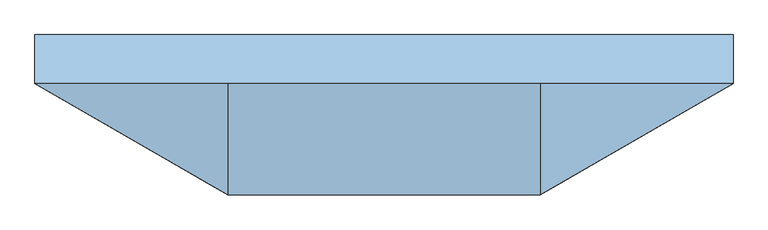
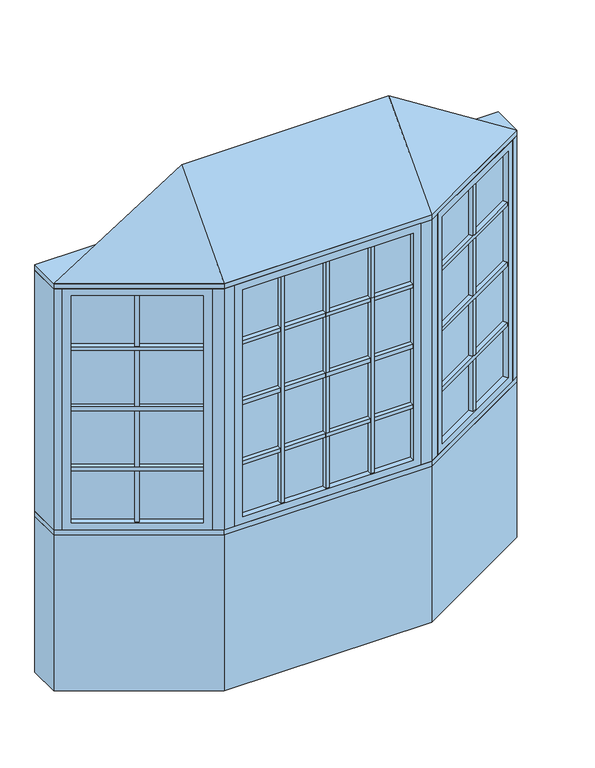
"""IFC4 building model written with IfcOpenShell, lengths in millimetres: window geometry, Pollard_Windows_Tudor Casement Bows and Bays : AML-BAY 30 AFR0512-12-600_GC."""

from ifc_helpers import new_model, si_unit, frame, origin, origin_with_axes, place, context, project, spatial, polyline, outline, extrude, faceted_brep, source, transform, mapped, element, save


def window_5ed1a6a2(model_context):
    return source(origin(), model_context, "Body", "SolidModel", [
        extrude(outline(polyline([(560.381999, -376.6297343), (549.381999, -357.5771754), (1015.6135794, -88.3982469), (1026.6135794, -107.4508058), (560.381999, -376.6297343)])), frame((0.0, 0.0, 1390.998), z_axis=(0.0, 0.0, 1.0), x_axis=(1.0, 0.0, 0.0)), (0.0, 0.0, 1.0), 18.0),
        extrude(outline(polyline([(546.841999, -353.1777664), (535.841999, -334.1252075), (1002.0735794, -64.946279), (1013.0735794, -83.9988379), (546.841999, -353.1777664)])), frame((0.0, 0.0, 1390.998), z_axis=(0.0, 0.0, 1.0), x_axis=(1.0, 0.0, 0.0)), (0.0, 0.0, 1.0), 18.0),
        extrude(outline(polyline([(560.381999, -376.6297343), (549.381999, -357.5771754), (1015.6135794, -88.3982469), (1026.6135794, -107.4508058), (560.381999, -376.6297343)])), frame((0.0, 0.0, 1090.998), z_axis=(0.0, 0.0, 1.0), x_axis=(1.0, 0.0, 0.0)), (0.0, 0.0, 1.0), 18.0),
        extrude(outline(polyline([(546.841999, -353.1777664), (535.841999, -334.1252075), (1002.0735794, -64.946279), (1013.0735794, -83.9988379), (546.841999, -353.1777664)])), frame((0.0, 0.0, 1090.998), z_axis=(0.0, 0.0, 1.0), x_axis=(1.0, 0.0, 0.0)), (0.0, 0.0, 1.0), 18.0),
        extrude(outline(polyline([(560.381999, -376.6297343), (549.381999, -357.5771754), (1015.6135794, -88.3982469), (1026.6135794, -107.4508058), (560.381999, -376.6297343)])), frame((0.0, 0.0, 1390.998), z_axis=(0.0, 0.0, 1.0), x_axis=(1.0, 0.0, 0.0)), (0.0, 0.0, 1.0), 18.0),
        extrude(outline(polyline([(546.841999, -353.1777664), (535.841999, -334.1252075), (1002.0735794, -64.946279), (1013.0735794, -83.9988379), (546.841999, -353.1777664)])), frame((0.0, 0.0, 1390.998), z_axis=(0.0, 0.0, 1.0), x_axis=(1.0, 0.0, 0.0)), (0.0, 0.0, 1.0), 18.0),
        extrude(outline(polyline([(560.381999, -376.6297343), (549.381999, -357.5771754), (1015.6135794, -88.3982469), (1026.6135794, -107.4508058), (560.381999, -376.6297343)])), frame((0.0, 0.0, 1390.998), z_axis=(0.0, 0.0, 1.0), x_axis=(1.0, 0.0, 0.0)), (0.0, 0.0, 1.0), 18.0),
        extrude(outline(polyline([(546.841999, -353.1777664), (535.841999, -334.1252075), (1002.0735794, -64.946279), (1013.0735794, -83.9988379), (546.841999, -353.1777664)])), frame((0.0, 0.0, 1390.998), z_axis=(0.0, 0.0, 1.0), x_axis=(1.0, 0.0, 0.0)), (0.0, 0.0, 1.0), 18.0),
        extrude(outline(polyline([(560.381999, -376.6297343), (549.381999, -357.5771754), (1015.6135794, -88.3982469), (1026.6135794, -107.4508058), (560.381999, -376.6297343)])), frame((0.0, 0.0, 1690.998), z_axis=(0.0, 0.0, 1.0), x_axis=(1.0, 0.0, 0.0)), (0.0, 0.0, 1.0), 18.0),
        extrude(outline(polyline([(546.841999, -353.1777664), (535.841999, -334.1252075), (1002.0735794, -64.946279), (1013.0735794, -83.9988379), (546.841999, -353.1777664)])), frame((0.0, 0.0, 1690.998), z_axis=(0.0, 0.0, 1.0), x_axis=(1.0, 0.0, 0.0)), (0.0, 0.0, 1.0), 18.0),
        extrude(outline(polyline([(790.2920178, -218.4877112), (801.2920178, -237.5402701), (785.7035606, -246.5402701), (774.7035606, -227.4877112), (790.2920178, -218.4877112)])), frame((0.0, 0.0, 835.8628), z_axis=(0.0, 0.0, 1.0), x_axis=(1.0, 0.0, 0.0)), (0.0, 0.0, 1.0), 1128.2704),
        extrude(outline(polyline([(787.7520178, -214.0883021), (772.1635606, -223.0883021), (761.1635606, -204.0357432), (776.7520178, -195.0357432), (787.7520178, -214.0883021)])), frame((0.0, 0.0, 835.8628), z_axis=(0.0, 0.0, 1.0), x_axis=(1.0, 0.0, 0.0)), (0.0, 0.0, 1.0), 1128.2704),
        extrude(outline(polyline([(1026.612102, -82.0482469), (538.3834764, -363.9271754), (535.8434764, -359.5277664), (1024.072102, -77.6488379), (1026.612102, -82.0482469)])), frame((0.0, 0.0, 823.1628), z_axis=(0.0, 0.0, 1.0), x_axis=(1.0, 0.0, 0.0)), (0.0, 0.0, 1.0), 1153.6704),
        faceted_brep([(1015.6135794, -88.3982469, 835.8628), (1028.3135794, -110.3952922, 835.8628), (1028.3135794, -110.3952922, 1964.1332), (1015.6135794, -88.3982469, 1964.1332), (1024.072102, -77.6488379, 823.1628), (1026.612102, -82.0482469, 823.1628), (1026.612102, -82.0482469, 1976.8332), (1024.072102, -77.6488379, 1976.8332), (1000.3735794, -62.0017926, 835.8628), (1013.0735794, -83.9988379, 835.8628), (1013.0735794, -83.9988379, 1964.1332), (1000.3735794, -62.0017926, 1964.1332), (1059.3734073, -92.4628922, 799.998), (1031.4334073, -44.0693926, 799.998), (1031.4334073, -44.0693926, 1999.998), (1059.3734073, -92.4628922, 1999.998), (562.081999, -379.5742207, 1964.1332), (549.381999, -357.5771754, 1964.1332), (538.3834764, -363.9271754, 1976.8332), (535.8434764, -359.5277664, 1976.8332), (546.841999, -353.1777664, 1964.1332), (534.141999, -331.1807211, 1964.1332), (503.0821711, -349.1131211, 1999.998), (531.0221711, -397.5066207, 1999.998), (562.081999, -379.5742207, 835.8628), (549.381999, -357.5771754, 835.8628), (538.3834764, -363.9271754, 823.1628), (535.8434764, -359.5277664, 823.1628), (546.841999, -353.1777664, 835.8628), (534.141999, -331.1807211, 835.8628), (503.0821711, -349.1131211, 799.998), (531.0221711, -397.5066207, 799.998)], [[[0, 1, 2, 3]], [[4, 5, 6, 7]], [[8, 9, 10, 11]], [[12, 13, 14, 15]], [[3, 2, 16, 17]], [[7, 6, 18, 19]], [[11, 10, 20, 21]], [[15, 14, 22, 23]], [[17, 16, 24, 25]], [[19, 18, 26, 27]], [[21, 20, 28, 29]], [[23, 22, 30, 31]], [[25, 24, 1, 0]], [[5, 26, 18, 6], [3, 17, 25, 0]], [[27, 26, 5, 4]], [[7, 19, 27, 4], [9, 28, 20, 10]], [[29, 28, 9, 8]], [[13, 30, 22, 14], [11, 21, 29, 8]], [[31, 30, 13, 12]], [[15, 23, 31, 12], [1, 24, 16, 2]]]),
        extrude(outline(polyline([(220.7781504, -397.1066207), (220.7781504, -419.1066207), (202.7781504, -419.1066207), (202.7781504, -397.1066207), (220.7781504, -397.1066207)])), frame((0.0, 0.0, 835.8628), z_axis=(0.0, 0.0, 1.0), x_axis=(1.0, 0.0, 0.0)), (0.0, 0.0, 1.0), 1128.2704),
        extrude(outline(polyline([(220.7781504, -392.0266207), (202.7781504, -392.0266207), (202.7781504, -370.0266207), (220.7781504, -370.0266207), (220.7781504, -392.0266207)])), frame((0.0, 0.0, 835.8628), z_axis=(0.0, 0.0, 1.0), x_axis=(1.0, 0.0, 0.0)), (0.0, 0.0, 1.0), 1128.2704),
        extrude(outline(polyline([(-202.7781504, -397.1066207), (-202.7781504, -419.1066207), (-220.7781504, -419.1066207), (-220.7781504, -397.1066207), (-202.7781504, -397.1066207)])), frame((0.0, 0.0, 835.8628), z_axis=(0.0, 0.0, 1.0), x_axis=(1.0, 0.0, 0.0)), (0.0, 0.0, 1.0), 1128.2704),
        extrude(outline(polyline([(-202.7781504, -392.0266207), (-220.7781504, -392.0266207), (-220.7781504, -370.0266207), (-202.7781504, -370.0266207), (-202.7781504, -392.0266207)])), frame((0.0, 0.0, 835.8628), z_axis=(0.0, 0.0, 1.0), x_axis=(1.0, 0.0, 0.0)), (0.0, 0.0, 1.0), 1128.2704),
        extrude(outline(polyline([(-401.8561009, -419.1066207), (-401.8561009, -397.1066207), (401.8561009, -397.1066207), (401.8561009, -419.1066207), (-401.8561009, -419.1066207)])), frame((0.0, 0.0, 1090.998), z_axis=(0.0, 0.0, 1.0), x_axis=(1.0, 0.0, 0.0)), (0.0, 0.0, 1.0), 18.0),
        extrude(outline(polyline([(-401.8561009, -392.0266207), (-401.8561009, -370.0266207), (401.8561009, -370.0266207), (401.8561009, -392.0266207), (-401.8561009, -392.0266207)])), frame((0.0, 0.0, 1090.998), z_axis=(0.0, 0.0, 1.0), x_axis=(1.0, 0.0, 0.0)), (0.0, 0.0, 1.0), 18.0),
        extrude(outline(polyline([(-401.8561009, -419.1066207), (-401.8561009, -397.1066207), (401.8561009, -397.1066207), (401.8561009, -419.1066207), (-401.8561009, -419.1066207)])), frame((0.0, 0.0, 1390.998), z_axis=(0.0, 0.0, 1.0), x_axis=(1.0, 0.0, 0.0)), (0.0, 0.0, 1.0), 18.0),
        extrude(outline(polyline([(-401.8561009, -392.0266207), (-401.8561009, -370.0266207), (401.8561009, -370.0266207), (401.8561009, -392.0266207), (-401.8561009, -392.0266207)])), frame((0.0, 0.0, 1390.998), z_axis=(0.0, 0.0, 1.0), x_axis=(1.0, 0.0, 0.0)), (0.0, 0.0, 1.0), 18.0),
        extrude(outline(polyline([(-401.8561009, -419.1066207), (-401.8561009, -397.1066207), (401.8561009, -397.1066207), (401.8561009, -419.1066207), (-401.8561009, -419.1066207)])), frame((0.0, 0.0, 1390.998), z_axis=(0.0, 0.0, 1.0), x_axis=(1.0, 0.0, 0.0)), (0.0, 0.0, 1.0), 18.0),
        extrude(outline(polyline([(-401.8561009, -392.0266207), (-401.8561009, -370.0266207), (401.8561009, -370.0266207), (401.8561009, -392.0266207), (-401.8561009, -392.0266207)])), frame((0.0, 0.0, 1390.998), z_axis=(0.0, 0.0, 1.0), x_axis=(1.0, 0.0, 0.0)), (0.0, 0.0, 1.0), 18.0),
        extrude(outline(polyline([(-401.8561009, -419.1066207), (-401.8561009, -397.1066207), (401.8561009, -397.1066207), (401.8561009, -419.1066207), (-401.8561009, -419.1066207)])), frame((0.0, 0.0, 1390.998), z_axis=(0.0, 0.0, 1.0), x_axis=(1.0, 0.0, 0.0)), (0.0, 0.0, 1.0), 18.0),
        extrude(outline(polyline([(-401.8561009, -392.0266207), (-401.8561009, -370.0266207), (401.8561009, -370.0266207), (401.8561009, -392.0266207), (-401.8561009, -392.0266207)])), frame((0.0, 0.0, 1390.998), z_axis=(0.0, 0.0, 1.0), x_axis=(1.0, 0.0, 0.0)), (0.0, 0.0, 1.0), 18.0),
        extrude(outline(polyline([(-1026.6135794, -107.4508058), (-1015.6135794, -88.3982469), (-549.381999, -357.5771754), (-560.381999, -376.6297343), (-1026.6135794, -107.4508058)])), frame((0.0, 0.0, 1090.998), z_axis=(0.0, 0.0, 1.0), x_axis=(1.0, 0.0, 0.0)), (0.0, 0.0, 1.0), 18.0),
        extrude(outline(polyline([(-1013.0735794, -83.9988379), (-1002.0735794, -64.946279), (-535.841999, -334.1252075), (-546.841999, -353.1777664), (-1013.0735794, -83.9988379)])), frame((0.0, 0.0, 1090.998), z_axis=(0.0, 0.0, 1.0), x_axis=(1.0, 0.0, 0.0)), (0.0, 0.0, 1.0), 18.0),
        extrude(outline(polyline([(-1026.6135794, -107.4508058), (-1015.6135794, -88.3982469), (-549.381999, -357.5771754), (-560.381999, -376.6297343), (-1026.6135794, -107.4508058)])), frame((0.0, 0.0, 1390.998), z_axis=(0.0, 0.0, 1.0), x_axis=(1.0, 0.0, 0.0)), (0.0, 0.0, 1.0), 18.0),
        extrude(outline(polyline([(-1013.0735794, -83.9988379), (-1002.0735794, -64.946279), (-535.841999, -334.1252075), (-546.841999, -353.1777664), (-1013.0735794, -83.9988379)])), frame((0.0, 0.0, 1390.998), z_axis=(0.0, 0.0, 1.0), x_axis=(1.0, 0.0, 0.0)), (0.0, 0.0, 1.0), 18.0),
        extrude(outline(polyline([(-1026.6135794, -107.4508058), (-1015.6135794, -88.3982469), (-549.381999, -357.5771754), (-560.381999, -376.6297343), (-1026.6135794, -107.4508058)])), frame((0.0, 0.0, 1390.998), z_axis=(0.0, 0.0, 1.0), x_axis=(1.0, 0.0, 0.0)), (0.0, 0.0, 1.0), 18.0),
        extrude(outline(polyline([(-1013.0735794, -83.9988379), (-1002.0735794, -64.946279), (-535.841999, -334.1252075), (-546.841999, -353.1777664), (-1013.0735794, -83.9988379)])), frame((0.0, 0.0, 1390.998), z_axis=(0.0, 0.0, 1.0), x_axis=(1.0, 0.0, 0.0)), (0.0, 0.0, 1.0), 18.0),
        extrude(outline(polyline([(-1026.6135794, -107.4508058), (-1015.6135794, -88.3982469), (-549.381999, -357.5771754), (-560.381999, -376.6297343), (-1026.6135794, -107.4508058)])), frame((0.0, 0.0, 1390.998), z_axis=(0.0, 0.0, 1.0), x_axis=(1.0, 0.0, 0.0)), (0.0, 0.0, 1.0), 18.0),
        extrude(outline(polyline([(-1013.0735794, -83.9988379), (-1002.0735794, -64.946279), (-535.841999, -334.1252075), (-546.841999, -353.1777664), (-1013.0735794, -83.9988379)])), frame((0.0, 0.0, 1390.998), z_axis=(0.0, 0.0, 1.0), x_axis=(1.0, 0.0, 0.0)), (0.0, 0.0, 1.0), 18.0),
        extrude(outline(polyline([(-1026.6135794, -107.4508058), (-1015.6135794, -88.3982469), (-549.381999, -357.5771754), (-560.381999, -376.6297343), (-1026.6135794, -107.4508058)])), frame((0.0, 0.0, 1690.998), z_axis=(0.0, 0.0, 1.0), x_axis=(1.0, 0.0, 0.0)), (0.0, 0.0, 1.0), 18.0),
        extrude(outline(polyline([(-1013.0735794, -83.9988379), (-1002.0735794, -64.946279), (-535.841999, -334.1252075), (-546.841999, -353.1777664), (-1013.0735794, -83.9988379)])), frame((0.0, 0.0, 1690.998), z_axis=(0.0, 0.0, 1.0), x_axis=(1.0, 0.0, 0.0)), (0.0, 0.0, 1.0), 18.0),
        extrude(outline(polyline([(-401.8561009, -419.1066207), (-401.8561009, -397.1066207), (401.8561009, -397.1066207), (401.8561009, -419.1066207), (-401.8561009, -419.1066207)])), frame((0.0, 0.0, 1690.998), z_axis=(0.0, 0.0, 1.0), x_axis=(1.0, 0.0, 0.0)), (0.0, 0.0, 1.0), 18.0),
        extrude(outline(polyline([(-401.8561009, -392.0266207), (-401.8561009, -370.0266207), (401.8561009, -370.0266207), (401.8561009, -392.0266207), (-401.8561009, -392.0266207)])), frame((0.0, 0.0, 1690.998), z_axis=(0.0, 0.0, 1.0), x_axis=(1.0, 0.0, 0.0)), (0.0, 0.0, 1.0), 18.0),
        extrude(outline(polyline([(-774.7035606, -227.4877112), (-785.7035606, -246.5402701), (-801.2920178, -237.5402701), (-790.2920178, -218.4877112), (-774.7035606, -227.4877112)])), frame((0.0, 0.0, 835.8628), z_axis=(0.0, 0.0, 1.0), x_axis=(1.0, 0.0, 0.0)), (0.0, 0.0, 1.0), 1128.2704),
        extrude(outline(polyline([(-772.1635606, -223.0883021), (-787.7520178, -214.0883021), (-776.7520178, -195.0357432), (-761.1635606, -204.0357432), (-772.1635606, -223.0883021)])), frame((0.0, 0.0, 835.8628), z_axis=(0.0, 0.0, 1.0), x_axis=(1.0, 0.0, 0.0)), (0.0, 0.0, 1.0), 1128.2704),
        extrude(outline(polyline([(9.0, -397.1066207), (9.0, -419.1066207), (-9.0, -419.1066207), (-9.0, -397.1066207), (9.0, -397.1066207)])), frame((0.0, 0.0, 835.8628), z_axis=(0.0, 0.0, 1.0), x_axis=(1.0, 0.0, 0.0)), (0.0, 0.0, 1.0), 1128.2704),
        extrude(outline(polyline([(9.0, -392.0266207), (-9.0, -392.0266207), (-9.0, -370.0266207), (9.0, -370.0266207), (9.0, -392.0266207)])), frame((0.0, 0.0, 835.8628), z_axis=(0.0, 0.0, 1.0), x_axis=(1.0, 0.0, 0.0)), (0.0, 0.0, 1.0), 1128.2704),
        extrude(outline(polyline([(-538.3834764, -363.9271754), (-1026.612102, -82.0482469), (-1024.072102, -77.6488379), (-535.8434764, -359.5277664), (-538.3834764, -363.9271754)])), frame((0.0, 0.0, 823.1628), z_axis=(0.0, 0.0, 1.0), x_axis=(1.0, 0.0, 0.0)), (0.0, 0.0, 1.0), 1153.6704),
        faceted_brep([(-546.841999, -353.1777664, 1964.1332), (-534.141999, -331.1807211, 1964.1332), (-534.141999, -331.1807211, 835.8628), (-546.841999, -353.1777664, 835.8628), (-538.3834764, -363.9271754, 1976.8332), (-535.8434764, -359.5277664, 1976.8332), (-535.8434764, -359.5277664, 823.1628), (-538.3834764, -363.9271754, 823.1628), (-562.081999, -379.5742207, 1964.1332), (-549.381999, -357.5771754, 1964.1332), (-549.381999, -357.5771754, 835.8628), (-562.081999, -379.5742207, 835.8628), (-503.0821711, -349.1131211, 1999.998), (-531.0221711, -397.5066207, 1999.998), (-531.0221711, -397.5066207, 799.998), (-503.0821711, -349.1131211, 799.998), (-1000.3735794, -62.0017926, 835.8628), (-1013.0735794, -83.9988379, 835.8628), (-1024.072102, -77.6488379, 823.1628), (-1026.612102, -82.0482469, 823.1628), (-1015.6135794, -88.3982469, 835.8628), (-1028.3135794, -110.3952922, 835.8628), (-1059.3734073, -92.4628922, 799.998), (-1031.4334073, -44.0693926, 799.998), (-1000.3735794, -62.0017926, 1964.1332), (-1013.0735794, -83.9988379, 1964.1332), (-1024.072102, -77.6488379, 1976.8332), (-1026.612102, -82.0482469, 1976.8332), (-1015.6135794, -88.3982469, 1964.1332), (-1028.3135794, -110.3952922, 1964.1332), (-1059.3734073, -92.4628922, 1999.998), (-1031.4334073, -44.0693926, 1999.998)], [[[0, 1, 2, 3]], [[4, 5, 6, 7]], [[8, 9, 10, 11]], [[12, 13, 14, 15]], [[3, 2, 16, 17]], [[7, 6, 18, 19]], [[11, 10, 20, 21]], [[15, 14, 22, 23]], [[17, 16, 24, 25]], [[19, 18, 26, 27]], [[21, 20, 28, 29]], [[23, 22, 30, 31]], [[15, 23, 31, 12], [1, 24, 16, 2]], [[25, 24, 1, 0]], [[5, 26, 18, 6], [3, 17, 25, 0]], [[27, 26, 5, 4]], [[7, 19, 27, 4], [9, 28, 20, 10]], [[29, 28, 9, 8]], [[13, 30, 22, 14], [11, 21, 29, 8]], [[31, 30, 13, 12]]]),
        extrude(outline(polyline([(414.5561009, -397.1066207), (-414.5561009, -397.1066207), (-414.5561009, -392.0266207), (414.5561009, -392.0266207), (414.5561009, -397.1066207)])), frame((0.0, 0.0, 823.1628), z_axis=(0.0, 0.0, 1.0), x_axis=(1.0, 0.0, 0.0)), (0.0, 0.0, 1.0), 1153.6704),
        faceted_brep([(401.8561009, -397.1066207, 835.8628), (401.8561009, -422.5066207, 835.8628), (401.8561009, -422.5066207, 1964.1332), (401.8561009, -397.1066207, 1964.1332), (414.5561009, -392.0266207, 823.1628), (414.5561009, -397.1066207, 823.1628), (414.5561009, -397.1066207, 1976.8332), (414.5561009, -392.0266207, 1976.8332), (401.8561009, -366.6266207, 835.8628), (401.8561009, -392.0266207, 835.8628), (401.8561009, -392.0266207, 1964.1332), (401.8561009, -366.6266207, 1964.1332), (437.7209009, -422.5066207, 799.998), (437.7209009, -366.6266207, 799.998), (437.7209009, -366.6266207, 1999.998), (437.7209009, -422.5066207, 1999.998), (-401.8561009, -422.5066207, 1964.1332), (-401.8561009, -397.1066207, 1964.1332), (-414.5561009, -397.1066207, 1976.8332), (-414.5561009, -392.0266207, 1976.8332), (-401.8561009, -392.0266207, 1964.1332), (-401.8561009, -366.6266207, 1964.1332), (-437.7209009, -366.6266207, 1999.998), (-437.7209009, -422.5066207, 1999.998), (-401.8561009, -422.5066207, 835.8628), (-401.8561009, -397.1066207, 835.8628), (-414.5561009, -397.1066207, 823.1628), (-414.5561009, -392.0266207, 823.1628), (-401.8561009, -392.0266207, 835.8628), (-401.8561009, -366.6266207, 835.8628), (-437.7209009, -366.6266207, 799.998), (-437.7209009, -422.5066207, 799.998)], [[[0, 1, 2, 3]], [[4, 5, 6, 7]], [[8, 9, 10, 11]], [[12, 13, 14, 15]], [[3, 2, 16, 17]], [[7, 6, 18, 19]], [[11, 10, 20, 21]], [[15, 14, 22, 23]], [[17, 16, 24, 25]], [[19, 18, 26, 27]], [[21, 20, 28, 29]], [[23, 22, 30, 31]], [[15, 23, 31, 12], [1, 24, 16, 2]], [[25, 24, 1, 0]], [[5, 26, 18, 6], [3, 17, 25, 0]], [[27, 26, 5, 4]], [[7, 19, 27, 4], [9, 28, 20, 10]], [[29, 28, 9, 8]], [[13, 30, 22, 14], [11, 21, 29, 8]], [[31, 30, 13, 12]]]),
        faceted_brep([(1090.0, -74.7806207, 2025.398), (487.7209009, -422.5066207, 2025.398), (-487.7209009, -422.5066207, 2025.398), (-1090.0, -74.7806207, 2025.398), (-487.7209009, -74.7806207, 2406.398), (487.7209009, -74.7806207, 2406.398)], [[[0, 1, 2, 3]], [[3, 2, 4]], [[2, 1, 5, 4]], [[1, 0, 5]], [[0, 3, 4, 5]]]),
        extrude(outline(polyline([(-1090.0, 77.6193793), (1090.0, 77.6193793), (1090.0, -74.7806207), (487.7209009, -422.5066207), (-487.7209009, -422.5066207), (-1090.0, -74.7806207), (-1090.0, 77.6193793)])), frame((0.0, 0.0, 1999.998), z_axis=(0.0, 0.0, 1.0), x_axis=(1.0, 0.0, 0.0)), (0.0, 0.0, 1.0), 25.4),
        extrude(outline(polyline([(-1090.0, -74.7806207), (-1090.0, 77.6193793), (-1049.1645431, 77.6193793), (-1049.1645431, -74.7806207), (-1059.3734073, -92.4628922), (-1090.0, -74.7806207)])), frame((0.0, 0.0, 799.998), z_axis=(0.0, 0.0, 1.0), x_axis=(1.0, 0.0, 0.0)), (0.0, 0.0, 1.0), 1200.0),
        extrude(outline(polyline([(1090.0, 77.6193793), (1090.0, -74.7806207), (1059.3734073, -92.4628922), (1049.1645431, -74.7806207), (1049.1645431, 77.6193793), (1090.0, 77.6193793)])), frame((0.0, 0.0, 799.998), z_axis=(0.0, 0.0, 1.0), x_axis=(1.0, 0.0, 0.0)), (0.0, 0.0, 1.0), 1200.0),
        extrude(outline(polyline([(487.7209009, -422.5066207), (437.7209009, -422.5066207), (437.7209009, -372.5066207), (474.3234413, -372.5066207), (506.0221711, -354.2053505), (531.0221711, -397.5066207), (487.7209009, -422.5066207)])), frame((0.0, 0.0, 799.998), z_axis=(0.0, 0.0, 1.0), x_axis=(1.0, 0.0, 0.0)), (0.0, 0.0, 1.0), 1200.0),
        extrude(outline(polyline([(-487.7209009, -422.5066207), (-531.0221711, -397.5066207), (-506.0221711, -354.2053505), (-474.3234413, -372.5066207), (-437.7209009, -372.5066207), (-437.7209009, -422.5066207), (-487.7209009, -422.5066207)])), frame((0.0, 0.0, 799.998), z_axis=(0.0, 0.0, 1.0), x_axis=(1.0, 0.0, 0.0)), (0.0, 0.0, 1.0), 1200.0),
        extrude(outline(polyline([(-487.7209009, -422.5066207), (-1090.0, -74.7806207), (-1090.0, 77.6193793), (-1049.1645431, 77.6193793), (-446.885444, -270.1066207), (446.885444, -270.1066207), (1049.1645431, 77.6193793), (1090.0, 77.6193793), (1090.0, -74.7806207), (487.7209009, -422.5066207), (-487.7209009, -422.5066207)])), frame((0.0, 0.0, 774.598), z_axis=(0.0, 0.0, 1.0), x_axis=(1.0, 0.0, 0.0)), (0.0, 0.0, 1.0), 25.4),
        extrude(outline(polyline([(-1090.0, -74.7806207), (-1090.0, 77.6193793), (-1049.1645431, 77.6193793), (-446.885444, -270.1066207), (446.885444, -270.1066207), (1049.1645431, 77.6193793), (1090.0, 77.6193793), (1090.0, -74.7806207), (487.7209009, -422.5066207), (-487.7209009, -422.5066207), (-1090.0, -74.7806207)])), origin_with_axes(), (0.0, 0.0, 1.0), 774.598),
    ])


if __name__ == "__main__":
    model = new_model("IFC4")
    model_context = context("Model", 3, world=origin())
    ifc_project = project(units=[si_unit("LENGTHUNIT", "METRE", prefix="MILLI")], contexts=[model_context])
    site = spatial("IfcSite", under=ifc_project)
    building = spatial("IfcBuilding", under=site)
    placement = place(None, origin())
    window_shape = window_5ed1a6a2(model_context)
    element("IfcWindow", 1, ObjectType="Pollard_Windows_Tudor Casement Bows and Bays : AML-BAY 30 AFR0512-12-600_GC", at=placement, inside=building, context=model_context, shape_type="MappedRepresentation", body=[
        mapped(window_shape, transform((0.0, 0.0, 0.0), x_axis=(1.0, 0.0, 0.0), y_axis=(0.0, 1.0, 0.0), z_axis=(0.0, 0.0, 1.0))),
    ])
    save(model, "model.ifc")
